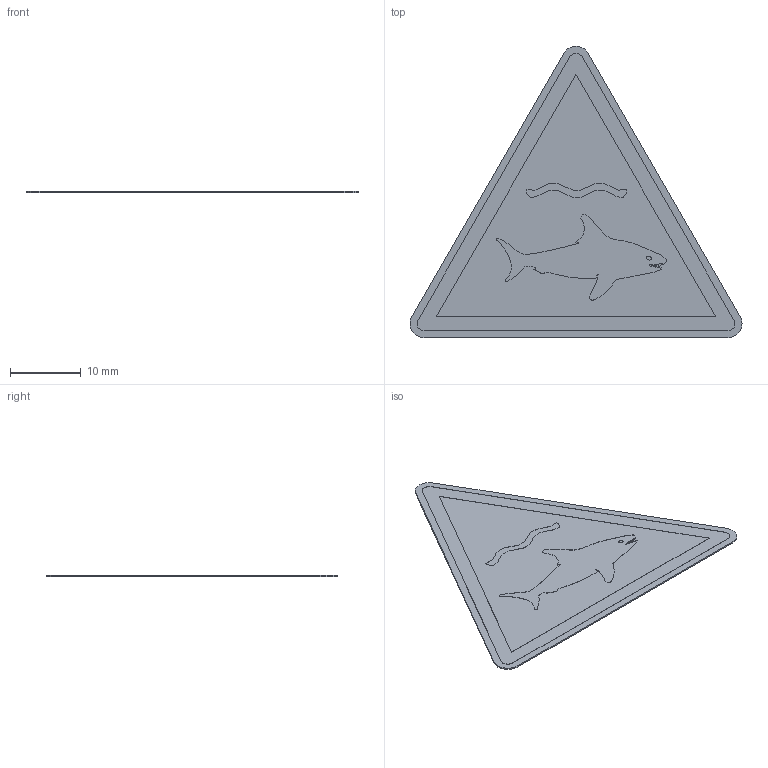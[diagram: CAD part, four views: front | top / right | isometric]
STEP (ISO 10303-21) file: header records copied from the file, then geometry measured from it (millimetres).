
FILE_DESCRIPTION (( 'STEP AP214' ), '1' );
FILE_NAME ('W054_Warnung vor Haien.STEP', '2022-03-05T05:21:28', ( '' ), ( '' ), 'SwSTEP 2.0', 'SolidWorks 2021', '' );
FILE_SCHEMA (( 'AUTOMOTIVE_DESIGN' ));
Length unit declared in the file: millimetre
Products named in the file (1): W054_Warnung vor Haien
Bounding box: 47.07 x 41.3 x 0.22 mm (x, y, z)
Volume: 222.4 mm3; surface area: 2184.3 mm2
Topology: 1 solids, 1 shells, 220 faces, 639 edges, 426 vertices
Faces by surface type: plane 192, cylinder 28
Entity records: 9492 total; most frequent: CARTESIAN_POINT 1286, ORIENTED_EDGE 1278, DIRECTION 1137, EDGE_CURVE 639, VECTOR 583, LINE 583, VERTEX_POINT 426, AXIS2_PLACEMENT_3D 277
